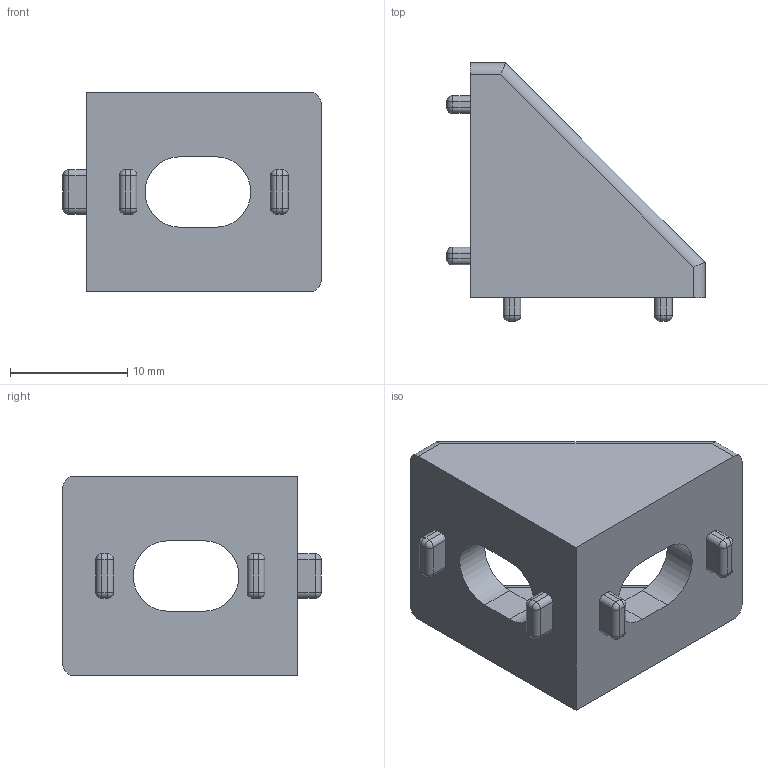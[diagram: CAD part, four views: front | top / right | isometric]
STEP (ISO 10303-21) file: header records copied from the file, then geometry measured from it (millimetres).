
FILE_DESCRIPTION((''),'2;1');
FILE_NAME('E:\catalogue and flyer\Profile catalogue 2015\Accessories JE info\Accessories-JE step file 31MAr16\JE-GE20x20-6.stp','2016-03-31T15:32:46',('h029'),(''),'Autodesk Inventor 11','Autodesk Inventor 11','');
FILE_SCHEMA(('AUTOMOTIVE_DESIGN { 1 0 10303 214 1 1 1 1 }'));
Length unit declared in the file: millimetre
Products named in the file (1): JE-GE20x20-6
Bounding box: 22 x 22 x 17 mm (x, y, z)
Volume: 2200.6 mm3; surface area: 2095.3 mm2
Topology: 1 solids, 1 shells, 94 faces, 232 edges, 128 vertices
Faces by surface type: cylinder 44, plane 34, sphere 16
Entity records: 2731 total; most frequent: CARTESIAN_POINT 523, DIRECTION 490, ORIENTED_EDGE 432, EDGE_CURVE 216, AXIS2_PLACEMENT_3D 183, VERTEX_POINT 128, VECTOR 124, LINE 124
